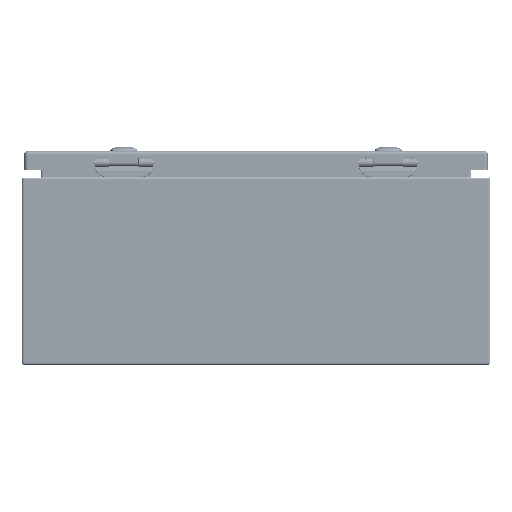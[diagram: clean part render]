
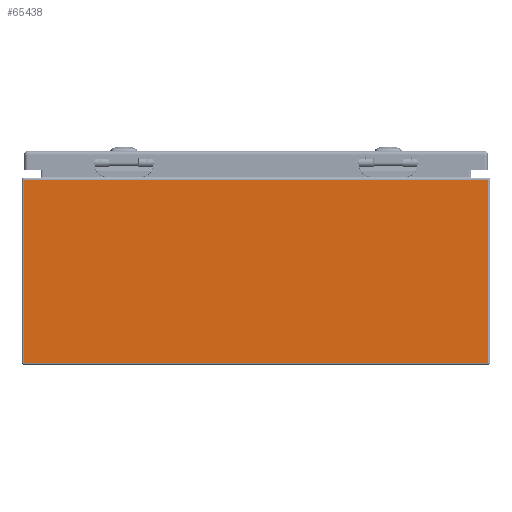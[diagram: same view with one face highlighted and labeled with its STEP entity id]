
A CAD part, left-side view. The second image highlights one B-rep face of the part: STEP entity #65438.
In plain terms, the highlighted planar face has unit normal (-1, 0, 0).
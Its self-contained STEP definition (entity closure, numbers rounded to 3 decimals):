
#6804=LINE('',#91883,#10753);
#6805=LINE('',#91890,#10754);
#6806=LINE('',#91892,#10755);
#6807=LINE('',#91893,#10756);
#10753=VECTOR('',#76240,0.394);
#10754=VECTOR('',#76249,0.394);
#10755=VECTOR('',#76250,0.394);
#10756=VECTOR('',#76251,0.394);
#15747=FACE_OUTER_BOUND('',#19811,.T.);
#19811=EDGE_LOOP('',(#43511,#43512,#43513,#43514));
#26576=VERTEX_POINT('',#91872);
#26579=VERTEX_POINT('',#91879);
#26582=VERTEX_POINT('',#91889);
#26583=VERTEX_POINT('',#91891);
#33086=EDGE_CURVE('',#26576,#26579,#6804,.T.);
#33089=EDGE_CURVE('',#26582,#26576,#6805,.T.);
#33090=EDGE_CURVE('',#26583,#26582,#6806,.T.);
#33091=EDGE_CURVE('',#26583,#26579,#6807,.T.);
#43511=ORIENTED_EDGE('',*,*,#33086,.F.);
#43512=ORIENTED_EDGE('',*,*,#33089,.F.);
#43513=ORIENTED_EDGE('',*,*,#33090,.F.);
#43514=ORIENTED_EDGE('',*,*,#33091,.T.);
#64023=PLANE('',#70376);
#65438=ADVANCED_FACE('',(#15747),#64023,.F.);
#70376=AXIS2_PLACEMENT_3D('',#91888,#76247,#76248);
#76240=DIRECTION('',(0.,0.,-1.));
#76247=DIRECTION('center_axis',(1.,0.,0.));
#76248=DIRECTION('ref_axis',(0.,0.,-1.));
#76249=DIRECTION('',(0.,-1.,0.));
#76250=DIRECTION('',(0.,0.,1.));
#76251=DIRECTION('',(0.,-1.,0.));
#91872=CARTESIAN_POINT('',(-10.,-9.916,7.916));
#91879=CARTESIAN_POINT('',(-10.,-9.916,0.084));
#91883=CARTESIAN_POINT('',(-10.,-9.916,7.916));
#91888=CARTESIAN_POINT('Origin',(-10.,-9.078,7.916));
#91889=CARTESIAN_POINT('',(-10.,9.916,7.916));
#91890=CARTESIAN_POINT('',(-10.,9.078,7.916));
#91891=CARTESIAN_POINT('',(-10.,9.916,0.084));
#91892=CARTESIAN_POINT('',(-10.,9.916,7.916));
#91893=CARTESIAN_POINT('',(-10.,0.,0.084));
